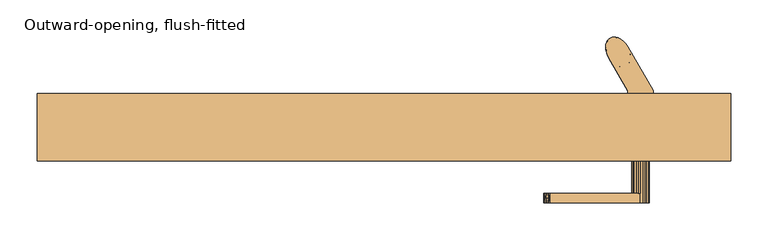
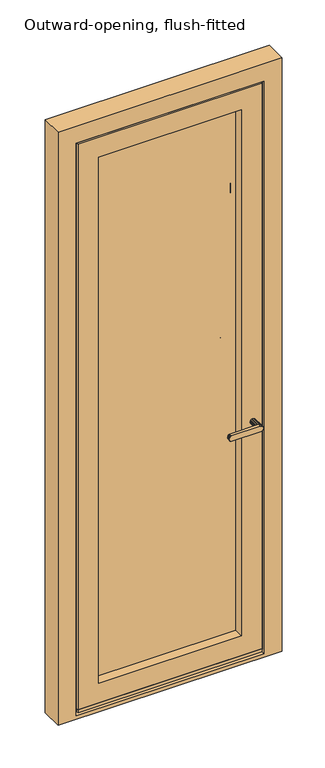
"""IFC4 building model written with IfcOpenShell, lengths in millimetres: door geometry, Outward-opening, flush-fitted."""

from ifc_helpers import new_model, si_unit, frame, origin, place, context, project, spatial, polyline, outline, extrude, faceted_brep, source, transform, mapped, element, save


def outward_opening_flush_fitted_14ec1b22(model_context):
    return source(origin(), model_context, "Body", "SolidModel", [
        faceted_brep([(-174.0, 299.0, 2674.0), (-174.0, 299.0, 165.0072496), (-174.0, 307.3, 167.8651688), (-174.0, 307.3, 2674.0), (-194.5, 307.3, 167.8651688), (-194.5, 307.3, 2694.5), (624.5, 307.3, 2694.5), (624.5, 307.3, 167.8651688), (604.0, 307.3, 167.8651688), (604.0, 307.3, 2674.0), (-194.5, 313.5, 170.0), (-194.5, 321.0, 170.0), (-194.5, 321.0, 164.3), (-194.5, 380.7, 164.3), (-194.5, 380.7, 2694.5), (-206.0, 388.9993365, 150.0), (-206.0, 388.9993365, 2706.0), (-206.0, 380.7, 2706.0), (-206.0, 380.7, 150.0), (-250.0, 388.9993365, 150.0), (-250.0, 388.9993365, 2750.0), (680.0, 388.9993365, 2750.0), (680.0, 388.9993365, 150.0), (636.0, 388.9993365, 150.0), (636.0, 388.9993365, 2706.0), (604.0, 299.0, 165.0072496), (604.0, 299.0, 2674.0), (636.0, 380.7, 150.0), (636.0, 380.7, 2706.0), (624.5, 380.7, 2694.5), (624.5, 380.7, 164.3), (624.5, 321.0, 164.3), (624.5, 321.0, 170.0), (624.5, 313.5, 170.0), (-250.0, 299.0, 2750.0), (680.0, 299.0, 2750.0), (-250.0, 299.0, 150.0), (680.0, 299.0, 150.0)], [[[0, 1, 2, 3]], [[3, 2, 4, 5, 6, 7, 8, 9]], [[5, 4, 10, 11, 12, 13, 14]], [[15, 16, 17, 18]], [[19, 20, 21, 22, 23, 24, 16, 15]], [[9, 8, 25, 26]], [[24, 23, 27, 28]], [[29, 30, 31, 32, 33, 7, 6]], [[26, 0, 3, 9]], [[28, 17, 16, 24]], [[21, 20, 34, 35]], [[29, 6, 5, 14]], [[19, 36, 34, 20]], [[35, 37, 22, 21]], [[37, 35, 34, 36], [1, 0, 26, 25]], [[19, 15, 18, 27, 23, 22, 37, 36]], [[10, 4, 2, 1, 25, 8, 7, 33]], [[18, 17, 28, 27], [30, 29, 14, 13]], [[13, 12, 31, 30]], [[12, 11, 32, 31]], [[11, 10, 33, 32]]]),
        faceted_brep([(570.5801281, 299.0, 1203.102886), (570.9886308, 299.0, 1200.0), (570.5801281, 299.0, 1196.897114), (569.3824588, 299.0, 1194.0056846), (567.4772421, 299.0, 1191.5227579), (564.9943154, 299.0, 1189.6175412), (562.102886, 299.0, 1188.4198719), (559.0, 299.0, 1188.0113692), (555.897114, 299.0, 1188.4198719), (553.0056846, 299.0, 1189.6175412), (550.5227579, 299.0, 1191.5227579), (548.6175412, 299.0, 1194.0056846), (547.4198719, 299.0, 1196.897114), (547.0113692, 299.0, 1200.0), (547.4198719, 299.0, 1203.102886), (548.6175412, 299.0, 1205.9943154), (550.5227579, 299.0, 1208.4772421), (553.0056846, 299.0, 1210.3824588), (555.897114, 299.0, 1211.5801281), (559.0, 299.0, 1211.9886308), (562.102886, 299.0, 1211.5801281), (564.9943154, 299.0, 1210.3824588), (567.4772421, 299.0, 1208.4772421), (569.3824588, 299.0, 1205.9943154), (559.0, 255.5001175, 1188.0113692), (555.897114, 255.5001175, 1188.4198719), (553.0056846, 255.5001175, 1189.6175412), (550.5227579, 255.5001175, 1191.5227579), (548.6175412, 255.5001175, 1194.0056846), (547.4198719, 255.5001175, 1196.897114), (547.0113692, 255.5001175, 1200.0), (547.4198719, 255.5001175, 1203.102886), (548.6175412, 255.5001175, 1205.9943154), (550.5227579, 255.5001175, 1208.4772421), (553.0056846, 255.5001175, 1210.3824588), (555.897114, 255.5001175, 1211.5801281), (559.0, 255.5001175, 1211.9886308), (559.0, 243.0000305, 1211.9886308), (562.102886, 243.0000305, 1211.5801281), (564.9943154, 243.0000305, 1210.3824588), (567.4772421, 243.0000305, 1208.4772421), (569.3824588, 243.0000305, 1205.9943154), (570.5801281, 243.0000305, 1203.102886), (570.9886308, 243.0000305, 1200.0), (570.5801281, 243.0000305, 1196.897114), (569.3824588, 243.0000305, 1194.0056846), (567.4772421, 243.0000305, 1191.5227579), (564.9943154, 243.0000305, 1189.6175412), (562.102886, 243.0000305, 1188.4198719), (559.0, 243.0000305, 1188.0113692), (437.3382074, 243.0000305, 1211.9886308), (435.7960029, 243.0000305, 1211.7582726), (434.3130644, 243.0000305, 1211.0760506), (432.9463805, 243.0000305, 1209.9681822), (431.7484721, 243.0000305, 1208.4772421), (430.765374, 243.0000305, 1206.6605264), (430.0348662, 243.0000305, 1204.5878504), (429.5850218, 243.0000305, 1202.3388658), (429.4331279, 243.0000305, 1200.0), (429.5850218, 243.0000305, 1197.6611342), (430.0348662, 243.0000305, 1195.4121496), (430.765374, 243.0000305, 1193.3394736), (431.7484721, 243.0000305, 1191.5227579), (432.9463805, 243.0000305, 1190.0318178), (434.3130644, 243.0000305, 1188.9239494), (435.7960029, 243.0000305, 1188.2417274), (437.3382074, 243.0000305, 1188.0113692), (429.5850218, 255.5001175, 1197.6611342), (429.4331279, 255.5001175, 1200.0), (429.5850218, 255.5001175, 1202.3388658), (430.0348662, 255.5001175, 1204.5878504), (430.765374, 255.5001175, 1206.6605264), (431.7484721, 255.5001175, 1208.4772421), (432.9463805, 255.5001175, 1209.9681822), (434.3130644, 255.5001175, 1211.0760506), (435.7960029, 255.5001175, 1211.7582726), (437.3382074, 255.5001175, 1211.9886308), (437.3382074, 255.5001175, 1188.0113692), (435.7960029, 255.5001175, 1188.2417274), (434.3130644, 255.5001175, 1188.9239494), (432.9463805, 255.5001175, 1190.0318178), (431.7484721, 255.5001175, 1191.5227579), (430.765374, 255.5001175, 1193.3394736), (430.0348662, 255.5001175, 1195.4121496), (437.3382074, 250.0756599, 1188.0113692), (433.6117788, 249.2500761, 1189.4269715), (431.2274983, 249.2500743, 1192.3944932), (429.773518, 249.250074, 1196.5198842), (430.3665497, 249.250074, 1205.6514014), (429.471193, 249.2500741, 1201.1750915), (432.323278, 249.250074, 1209.2673369), (435.0434839, 249.250074, 1211.4724044), (437.3382074, 249.250074, 1211.9886308)], [[[0, 1, 2, 3, 4, 5, 6, 7, 8, 9, 10, 11, 12, 13, 14, 15, 16, 17, 18, 19, 20, 21, 22, 23]], [[7, 24, 25, 8]], [[8, 25, 26, 9]], [[11, 10, 27, 28]], [[27, 10, 9, 26]], [[12, 11, 28, 29]], [[12, 29, 30, 13]], [[13, 30, 31, 14]], [[14, 31, 32, 15]], [[17, 16, 33, 34]], [[33, 16, 15, 32]], [[18, 17, 34, 35]], [[18, 35, 36, 19]], [[19, 36, 37, 38, 20]], [[20, 38, 39, 21]], [[23, 22, 40, 41]], [[40, 22, 21, 39]], [[0, 23, 41, 42]], [[0, 42, 43, 1]], [[1, 43, 44, 2]], [[2, 44, 45, 3]], [[5, 4, 46, 47]], [[46, 4, 3, 45]], [[6, 5, 47, 48]], [[6, 48, 49, 24, 7]], [[44, 43, 42, 41, 40, 39, 38, 37, 50, 51, 52, 53, 54, 55, 56, 57, 58, 59, 60, 61, 62, 63, 64, 65, 66, 49, 48, 47, 46, 45]], [[67, 68, 69, 70, 71, 72, 73, 74, 75, 76, 36, 35, 34, 33, 32, 31, 30, 29, 28, 27, 26, 25, 24, 77, 78, 79, 80, 81, 82, 83]], [[24, 49, 66, 84, 77]], [[65, 64, 85]], [[86, 85, 63]], [[82, 87, 83]], [[80, 86, 81]], [[69, 88, 70]], [[84, 85, 78]], [[87, 60, 59]], [[89, 57, 56]], [[60, 87, 86]], [[73, 90, 91, 74]], [[62, 61, 86]], [[90, 72, 71, 88]], [[89, 87, 58]], [[79, 85, 80]], [[78, 77, 84]], [[65, 84, 66]], [[79, 78, 85]], [[87, 59, 58]], [[63, 85, 64]], [[61, 60, 86]], [[63, 62, 86]], [[81, 86, 82]], [[80, 85, 86]], [[75, 92, 76]], [[51, 50, 92]], [[88, 55, 54, 90]], [[82, 86, 87]], [[84, 65, 85]], [[67, 83, 87]], [[53, 52, 91, 90]], [[67, 87, 89]], [[88, 56, 55]], [[56, 88, 89]], [[52, 51, 91]], [[90, 54, 53]], [[68, 67, 89]], [[68, 89, 69]], [[69, 89, 88]], [[70, 88, 71]], [[51, 92, 91]], [[90, 73, 72]], [[74, 91, 75]], [[91, 92, 75]], [[89, 58, 57]], [[37, 36, 76, 92, 50]]]),
        faceted_brep([(608.5, 307.3, 2678.5), (608.5, 307.3, 178.5), (608.5, 380.7, 178.5), (608.5, 380.7, 2678.5), (629.0, 380.7, 2699.0), (-199.0, 380.7, 2699.0), (-199.0, 380.7, 158.0), (629.0, 380.7, 158.0), (-178.5, 380.7, 2678.5), (-178.5, 380.7, 178.5), (-178.5, 307.3, 178.5), (-178.5, 307.3, 2678.5), (-167.0, 307.3, 2667.0), (597.0, 307.3, 2667.0), (597.0, 307.3, 190.0), (-167.0, 307.3, 190.0), (597.0, 299.0, 2667.0), (597.0, 299.0, 190.0), (-167.0, 299.0, 190.0), (-167.0, 299.0, 2667.0), (-81.9999695, 299.0, 2581.9999695), (511.9999695, 299.0, 2581.9999695), (511.9999695, 299.0, 275.0000305), (-81.9999695, 299.0, 275.0000305), (511.9999695, 340.0, 2581.9999695), (511.9999695, 340.0, 275.0000305), (-81.9999695, 340.0, 275.0000305), (-97.0, 340.0, 2597.0), (527.0, 340.0, 2597.0), (527.0, 340.0, 260.0), (-97.0, 340.0, 260.0), (-81.9999695, 340.0, 2581.9999695), (527.0, 378.0, 2597.0), (527.0, 378.0, 260.0), (-97.0, 378.0, 260.0), (-97.0, 378.0, 2597.0), (-80.0, 378.0, 2580.0), (510.0, 378.0, 2580.0), (510.0, 378.0, 277.0), (-80.0, 378.0, 277.0), (510.0, 389.0, 2580.0), (510.0, 389.0, 277.0), (-80.0, 389.0, 277.0), (-199.0, 389.0, 2699.0), (629.0, 389.0, 2699.0), (629.0, 389.0, 158.0), (-199.0, 389.0, 158.0), (-80.0, 389.0, 2580.0)], [[[0, 1, 2, 3]], [[4, 5, 6, 7], [8, 3, 2, 9]], [[1, 10, 9, 2]], [[0, 11, 10, 1], [12, 13, 14, 15]], [[16, 17, 14, 13]], [[17, 18, 15, 14]], [[16, 19, 18, 17], [20, 21, 22, 23]], [[24, 25, 22, 21]], [[25, 26, 23, 22]], [[27, 28, 29, 30], [24, 31, 26, 25]], [[32, 33, 29, 28]], [[33, 34, 30, 29]], [[32, 35, 34, 33], [36, 37, 38, 39]], [[40, 41, 38, 37]], [[41, 42, 39, 38]], [[43, 44, 45, 46], [40, 47, 42, 41]], [[4, 7, 45, 44]], [[7, 6, 46, 45]], [[10, 11, 8, 9]], [[18, 19, 12, 15]], [[26, 31, 20, 23]], [[34, 35, 27, 30]], [[42, 47, 36, 39]], [[6, 5, 43, 46]], [[11, 0, 3, 8]], [[19, 16, 13, 12]], [[31, 24, 21, 20]], [[35, 32, 28, 27]], [[47, 40, 37, 36]], [[5, 4, 44, 43]]]),
        faceted_brep([(524.8067219, 464.9671188, 2643.5), (521.3206353, 464.7977178, 2643.5), (518.2202405, 463.6325784, 2643.5), (515.6610041, 461.5301259, 2643.5), (513.7712569, 458.5957857, 2643.5), (512.6457588, 454.9766982, 2643.5), (512.3409469, 450.8543393, 2643.5), (512.8721059, 446.4354214, 2643.5), (514.212601, 441.9415275, 2643.5), (516.2952144, 437.5980002, 2643.5), (519.0155151, 433.622642, 2643.5), (522.2370958, 430.2147941, 2643.5), (525.7984131, 427.5453402, 2643.5), (529.5208876, 425.7481378, 2643.5), (533.2178589, 424.9133062, 2643.5), (536.7039455, 425.0827073, 2643.5), (539.8043404, 426.2478466, 2643.5), (542.3635768, 428.3502991, 2643.5), (544.2533239, 431.2846393, 2643.5), (545.3788221, 434.9037268, 2643.5), (545.6836339, 439.0260857, 2643.5), (545.152475, 443.4450036, 2643.5), (543.8119798, 447.9388975, 2643.5), (541.7293665, 452.2824248, 2643.5), (539.0090658, 456.257783, 2643.5), (535.787485, 459.6656309, 2643.5), (532.2261678, 462.3350848, 2643.5), (528.5036932, 464.1322872, 2643.5), (542.3635768, 428.3502991, 213.5), (539.8043404, 426.2478466, 213.5), (536.7039455, 425.0827073, 213.5), (533.2178589, 424.9133062, 213.5), (529.5208876, 425.7481378, 213.5), (525.7984131, 427.5453402, 213.5), (522.2370958, 430.2147941, 213.5), (519.0155151, 433.622642, 213.5), (516.2952144, 437.5980002, 213.5), (514.212601, 441.9415275, 213.5), (512.8721059, 446.4354214, 213.5), (512.3409469, 450.8543393, 213.5), (512.6457588, 454.9766982, 213.5), (513.7712569, 458.5957857, 213.5), (515.6610041, 461.5301259, 213.5), (518.2202405, 463.6325784, 213.5), (521.3206353, 464.7977178, 213.5), (524.8067219, 464.9671188, 213.5), (528.5036932, 464.1322872, 213.5), (532.2261678, 462.3350848, 213.5), (535.787485, 459.6656309, 213.5), (539.0090658, 456.257783, 213.5), (541.7293665, 452.2824248, 213.5), (543.8119798, 447.9388975, 213.5), (545.152475, 443.4450036, 213.5), (545.6836339, 439.0260857, 213.5), (545.3788221, 434.9037268, 213.5), (544.2533239, 431.2846393, 213.5), (533.204278, 461.7002488, 285.1216157), (512.3332551, 451.3840043, 541.7922648), (513.2807282, 457.3814933, 477.503479), (516.2952144, 437.5980002, 464.612136), (514.6256704, 460.1586461, 2565.8178129), (526.640293, 464.6737836, 2551.4140378), (541.7293665, 452.2824248, 2559.7959515), (518.2202405, 463.6325784, 2214.3806783), (512.3557948, 452.4170006, 2205.4496908), (512.7823438, 455.6421284, 2288.9719226), (512.4016765, 449.689855, 2571.8783868), (523.0260395, 465.0086042, 291.1821801), (531.6696107, 462.6652573, 349.5601242), (534.2925888, 460.9089118, 412.3733957), (541.7293665, 452.2824248, 380.9080884), (528.7115731, 464.0570647, 2465.163568), (541.7293665, 452.2824248, 2392.3878631), (526.103592, 464.7847841, 2379.4965602), (520.7033401, 464.6535898, 1406.0393016), (517.5979143, 463.2421075, 1504.4375282), (529.9764755, 463.535689, 1487.3231053), (516.8642379, 462.6929778, 2490.8363335), (512.3332873, 451.5014222, 2507.4398827), (517.3632387, 463.0776297, 2417.7296311), (512.3888278, 452.9659797, 316.9067942), (515.1472662, 460.9034648, 278.6589928), (532.6207767, 462.0874413, 757.5763391), (521.6346917, 464.8565813, 718.9515468), (522.0447728, 464.9194231, 799.4283622), (516.2952144, 437.5980002, 2476.0919094), (512.5428396, 448.3516824, 2444.6266291), (516.2952144, 437.5980002, 2392.387864), (531.2171552, 462.917446, 667.2367993), (528.0596481, 464.2830609, 570.2187422), (518.2202404, 463.6325784, 642.6193347), (541.7293665, 452.2824248, 464.6121325), (516.4326117, 462.3177683, 1149.2579881), (513.1594747, 457.0219413, 1192.222599), (518.7751621, 463.9300646, 1205.6986099), (512.5334507, 454.2946764, 2388.4378932), (516.2952144, 437.5980002, 2308.6838187), (541.7293665, 452.2824248, 2476.0919073), (541.7293665, 452.2824248, 297.2040442), (529.4992363, 463.7452541, 1696.9848803), (519.6027498, 464.2953544, 1740.4701392), (532.0082324, 462.4670173, 1774.1505885), (516.2952144, 437.5980002, 2559.7959547), (519.7119616, 464.3371126, 366.1636538), (518.9022354, 463.9920104, 2019.6291527), (512.3664789, 452.6238286, 1979.3677583), (512.3596014, 450.3575628, 2046.7077944), (516.2952144, 437.5980002, 297.2040453), (514.3718801, 459.7466494, 1252.5353002), (512.3440287, 452.1175277, 1293.2709458), (517.1331698, 462.9064169, 1308.7344475), (516.2952144, 437.5980002, 2104.1709547), (513.0798487, 456.7679986, 2104.1709683), (520.0222889, 464.4480687, 2293.6236249), (530.874325, 463.0989603, 2256.0459646), (531.8993408, 462.5316591, 2180.3062673), (516.2952144, 437.5980002, 2172.3419094), (541.7293665, 452.2824248, 1961.7904532), (531.1078119, 462.9762309, 1995.8759468), (541.7293665, 452.2824248, 2029.9614066), (529.1504981, 463.8885374, 468.5621488), (541.7293665, 452.2824248, 548.3161811), (519.1293411, 464.09729, 439.2704161), (516.0991626, 461.9973706, 557.1813833), (512.5657339, 454.5083643, 762.7331652), (512.3333524, 451.3530966, 834.9201968), (515.9105173, 461.8030443, 852.2089645), (532.1755088, 462.3660578, 845.8962913), (541.7293665, 452.2824248, 799.428318), (513.0129722, 456.5418638, 398.4349267), (514.0931864, 459.2476331, 699.2659079), (512.4924963, 448.7546363, 707.8728853), (523.0201691, 465.0083175, 903.5304253), (516.2952144, 437.5980002, 1200.6875), (526.7246302, 464.6544886, 2052.4130295), (534.0792508, 461.0713157, 2088.7278998), (512.4253594, 453.3958882, 1800.142792), (521.4685009, 464.8266146, 1830.408395), (514.3313757, 459.677361, 1093.9612926), (517.9527779, 463.4725453, 1000.9284447), (512.3351833, 451.72976, 1020.4493798), (516.2952144, 437.5980002, 896.9375), (512.6832757, 455.173408, 906.0013833), (527.1247931, 464.5561422, 1233.2770129), (516.1490016, 462.0470828, 2351.9174602), (517.4151131, 463.1148505, 2147.0247257), (516.2952144, 437.5980002, 2240.512864), (518.1040681, 463.5644581, 2086.3960042), (517.0002864, 462.8028033, 1914.3748425), (531.3965432, 462.8191863, 1895.0175583), (514.2594697, 459.5517535, 1854.135443), (512.3397103, 451.9655423, 1901.1370691), (541.7293665, 452.2824248, 2308.6838189), (532.689043, 462.0434449, 2324.2208066), (541.7293665, 452.2824248, 2240.512864), (541.7293665, 452.2824248, 2203.4080895), (541.7293665, 452.2824248, 2098.13236), (516.2952144, 437.5980002, 1960.0625), (516.2952144, 437.5980002, 2036.0), (530.8498752, 463.1115922, 1834.4107874), (516.2952144, 437.5980002, 1732.25), (512.3542325, 452.382843, 1720.7387555), (519.9605444, 464.4268847, 1673.191234), (516.2952144, 437.5980002, 1504.4375), (512.5141923, 454.1582545, 1557.657775), (512.3461994, 452.1821215, 1470.228178), (541.7293665, 452.2824248, 1552.7647243), (541.7293665, 452.2824248, 1504.4375), (541.7293665, 452.2824248, 1469.0606801), (530.5038819, 463.2858992, 1334.6720691), (516.2952144, 437.5980002, 1352.5625), (512.3677062, 452.6452491, 1372.2803887), (541.7293665, 452.2824248, 1960.0625), (541.7293665, 452.2824248, 1893.6194998), (541.7293665, 452.2824248, 1825.4485421), (516.2952144, 437.5980002, 1757.2775934), (516.2952144, 437.5980002, 1825.4485447), (516.2952144, 437.5980002, 1884.125), (522.5128169, 464.9724559, 1559.3780694), (526.2356721, 464.7593661, 1620.9357053), (541.7293665, 452.2824248, 1620.9356777), (532.9667077, 461.8609494, 1568.5371043), (517.3959723, 463.1011746, 1613.1018563), (512.948471, 456.3109201, 1644.5888479), (541.7293665, 452.2824248, 1757.2775844), (541.7293665, 452.2824248, 1732.25), (541.7293665, 452.2824248, 1656.3125), (516.2952144, 437.5980002, 1580.375), (516.2952144, 437.5980002, 1620.935682), (516.2952144, 437.5980002, 1656.3125), (532.2745794, 462.3053124, 1413.3263758), (541.7293665, 452.2824248, 1428.5), (541.7293665, 452.2824248, 1385.3566359), (516.2952144, 437.5980002, 1428.5), (541.7293665, 452.2824248, 1580.375), (516.2952144, 437.5980002, 1552.7647263), (541.7293665, 452.2824248, 1301.6525917), (541.7293665, 452.2824248, 1217.9485432), (531.1735462, 462.9409913, 1008.6884699), (527.0290821, 464.580683, 1092.3925137), (541.7293665, 452.2824248, 1134.2444947), (541.7293665, 452.2824248, 1124.75), (541.7293665, 452.2824248, 1050.5404505), (533.9049208, 461.2013534, 924.9844261), (541.7293665, 452.2824248, 966.8364063), (541.7293665, 452.2824248, 896.9375), (541.7293665, 452.2824248, 883.1323621), (512.5402202, 448.3714072, 1086.7812867), (516.2952144, 437.5980002, 1124.75), (526.9212196, 464.6075734, 1162.8389736), (541.7293665, 452.2824248, 1200.6875), (516.2952144, 437.5980002, 972.875), (512.4464587, 449.1818352, 959.1164959), (516.2952144, 437.5980002, 1048.8125), (516.2952144, 437.5980002, 1050.5404529), (541.7293665, 452.2824248, 1048.8125), (541.7293665, 452.2824248, 972.875), (541.7293665, 452.2824248, 1352.5625), (541.7293665, 452.2824248, 752.8290453), (541.7293665, 452.2824248, 715.7242738), (541.7293665, 452.2824248, 821.0), (541.7293665, 452.2824248, 632.0202296), (520.7076298, 464.6547259, 503.7778315), (512.3400681, 450.8884881, 618.5959499), (516.2952144, 437.5980002, 821.0), (516.2952144, 437.5980002, 752.8290453), (541.7293665, 452.2824248, 684.6580906), (516.2952144, 437.5980002, 548.3161813), (516.2952144, 437.5980002, 632.0202264), (516.2952144, 437.5980002, 684.6580906), (516.2952144, 437.5980002, 799.4283205), (516.2952144, 437.5980002, 715.7242735), (516.2952144, 437.5980002, 1469.0606793), (516.2952144, 437.5980002, 1217.9485469), (516.2952144, 437.5980002, 1301.6525939), (516.2952144, 437.5980002, 2203.4080919), (516.2952144, 437.5980002, 380.9080906), (516.2952144, 437.5980002, 1134.2444999), (516.2952144, 437.5980002, 2098.1323632), (541.7293665, 452.2824248, 2172.3419094), (541.7293665, 452.2824248, 2104.1709547), (525.7297958, 464.849936, 2114.9816334), (516.2952144, 437.5980002, 1893.6194961), (516.2952144, 437.5980002, 1961.7904518), (516.2952144, 437.5980002, 2029.9614075), (541.7293665, 452.2824248, 2036.0), (541.7293665, 452.2824248, 1884.125), (516.2952144, 437.5980002, 1385.3566366), (516.2952144, 437.5980002, 966.8364058), (516.2952144, 437.5980002, 883.1323632), (524.8203028, 428.1801762, 285.1216157), (545.6913257, 438.4964207, 541.7922648), (544.7438526, 432.4989317, 477.503479), (543.3989104, 429.7217789, 2565.8178129), (531.3842879, 425.2066414, 2551.4140378), (539.8043404, 426.2478466, 2214.3806783), (545.6687861, 437.4634244, 2205.4496908), (545.2422371, 434.2382966, 2288.9719226), (545.6229044, 440.19057, 2571.8783868), (534.9985414, 424.8718208, 291.1821801), (526.3549701, 427.2151677, 349.5601242), (523.7319921, 428.9715132, 412.3733957), (529.3130078, 425.8233603, 2465.163568), (531.9209889, 425.0956409, 2379.4965602), (537.3212408, 425.2268352, 1406.0393016), (540.4266666, 426.6383175, 1504.4375282), (528.0481053, 426.344736, 1487.3231053), (541.160343, 427.1874472, 2490.8363335), (545.6912936, 438.3790028, 2507.4398827), (540.6613422, 426.8027953, 2417.7296311), (545.6357531, 436.9144453, 316.9067942), (542.8773146, 428.9769602, 278.6589928), (525.4038041, 427.7929837, 757.5763391), (535.9798081, 424.9610019, 799.4283622), (525.8490721, 427.5143672, 845.8962913), (545.4817412, 441.5287426, 2444.6266291), (526.8074257, 426.962979, 667.2367993), (529.9649328, 425.5973641, 570.2187422), (539.8043404, 426.2478466, 642.6193347), (541.5919692, 427.5626567, 1149.2579881), (544.8651062, 432.8584837, 1192.222599), (539.2494187, 425.9503604, 1205.6986099), (545.4911302, 435.5857486, 2388.4378932), (528.5253446, 426.1351709, 1696.9848803), (538.4218311, 425.5850706, 1740.4701392), (526.0163485, 427.4134077, 1774.1505885), (538.3126193, 425.5433125, 366.1636538), (539.1223455, 425.8884146, 2019.6291527), (545.658102, 437.2565964, 1979.3677583), (545.6649795, 439.5228622, 2046.7077944), (543.6527008, 430.1337756, 1252.5353002), (545.6805521, 437.7628973, 1293.2709458), (540.8914111, 426.9740081, 1308.7344475), (544.9447322, 433.1124264, 2104.1709683), (538.0022919, 425.4323563, 2293.6236249), (527.1502558, 426.7814647, 2256.0459646), (526.12524, 427.3487659, 2180.3062673), (526.916769, 426.9041941, 1995.8759468), (528.8740827, 425.9918876, 468.5621488), (538.8952398, 425.783135, 439.2704161), (541.9254183, 427.8830544, 557.1813833), (545.4588469, 435.3720607, 762.7331652), (545.6912284, 438.5273284, 834.9201968), (542.1140636, 428.0773807, 852.2089645), (545.0116087, 433.3385612, 398.4349267), (543.9313944, 430.6327919, 699.2659079), (545.5320845, 441.1257887, 707.8728853), (535.0044118, 424.8721075, 903.5304253), (531.2999507, 425.2259364, 2052.4130295), (523.9453301, 428.8091093, 2088.7278998), (545.5992215, 436.4845368, 1800.142792), (536.5560799, 425.0538104, 1830.408395), (536.3898891, 425.0238437, 718.9515468), (543.6932052, 430.203064, 1093.9612926), (540.0718029, 426.4078797, 1000.9284447), (545.6893975, 438.150665, 1020.4493798), (545.3413052, 434.707017, 906.0013833), (530.8997878, 425.3242828, 1233.2770129), (541.8755792, 427.8333422, 2351.9174602), (540.6094678, 426.7655745, 2147.0247257), (539.9205128, 426.3159669, 2086.3960042), (541.0242944, 427.0776217, 1914.3748425), (526.6280377, 427.0612387, 1895.0175583), (543.7651112, 430.3286715, 1854.135443), (545.6848705, 437.9148827, 1901.1370691), (525.3355379, 427.8369801, 2324.2208066), (527.1747056, 426.7688328, 1834.4107874), (545.6703483, 437.497582, 1720.7387555), (538.0640364, 425.4535403, 1673.191234), (545.5103885, 435.7221705, 1557.657775), (545.6783814, 437.6983035, 1470.228178), (527.520699, 426.5945258, 1334.6720691), (545.6568747, 437.2351759, 1372.2803887), (535.5117639, 424.9079691, 1559.3780694), (531.7889087, 425.1210589, 1620.9357053), (525.0578731, 428.0194756, 1568.5371043), (540.6286086, 426.7792504, 1613.1018563), (545.0761099, 433.5695049, 1644.5888479), (525.7500014, 427.5751126, 1413.3263758), (526.8510346, 426.9394337, 1008.6884699), (530.9954987, 425.299742, 1092.3925137), (524.1196601, 428.6790716, 924.9844261), (545.4843607, 441.5090178, 1086.7812867), (531.1033612, 425.2728517, 1162.8389736), (545.5781221, 440.6985899, 959.1164959), (537.3169511, 425.2256991, 503.7778315), (545.6845127, 438.9919369, 618.5959499), (532.294785, 425.030489, 2114.9816334)], [[[0, 1, 2, 3, 4, 5, 6, 7, 8, 9, 10, 11, 12, 13, 14, 15, 16, 17, 18, 19, 20, 21, 22, 23, 24, 25, 26, 27]], [[28, 29, 30, 31, 32, 33, 34, 35, 36, 37, 38, 39, 40, 41, 42, 43, 44, 45, 46, 47, 48, 49, 50, 51, 52, 53, 54, 55]], [[56, 49, 48]], [[57, 58, 59]], [[2, 1, 60]], [[26, 61, 27]], [[24, 62, 25]], [[63, 64, 65]], [[1, 61, 60]], [[5, 60, 66]], [[46, 67, 56]], [[68, 69, 70]], [[68, 56, 67]], [[61, 0, 27]], [[71, 72, 73]], [[74, 75, 76]], [[60, 77, 78]], [[2, 60, 3]], [[71, 73, 79]], [[44, 67, 45]], [[25, 61, 26]], [[40, 80, 81]], [[7, 6, 66]], [[82, 83, 84]], [[85, 86, 87]], [[88, 89, 90]], [[91, 70, 69]], [[92, 93, 94]], [[5, 4, 60]], [[62, 61, 25]], [[3, 60, 4]], [[66, 8, 7]], [[95, 65, 96]], [[77, 60, 61]], [[43, 42, 81]], [[67, 44, 43]], [[61, 62, 97]], [[98, 50, 49]], [[24, 23, 62]], [[99, 100, 101]], [[78, 102, 66]], [[81, 103, 67]], [[85, 78, 86]], [[104, 105, 106]], [[61, 1, 0]], [[67, 103, 68]], [[37, 36, 107]], [[8, 102, 9]], [[108, 109, 110]], [[78, 66, 60]], [[107, 80, 38]], [[68, 98, 56]], [[80, 40, 39]], [[81, 41, 40]], [[48, 47, 56]], [[38, 80, 39]], [[43, 81, 67]], [[46, 45, 67]], [[106, 111, 112]], [[95, 96, 87]], [[102, 78, 85]], [[79, 95, 86]], [[63, 113, 114]], [[115, 63, 114]], [[112, 111, 116]], [[77, 61, 71]], [[117, 118, 119]], [[120, 121, 91]], [[98, 68, 70]], [[122, 120, 69]], [[123, 90, 89]], [[124, 125, 126]], [[82, 127, 128]], [[122, 129, 58]], [[130, 131, 124]], [[132, 84, 126]], [[93, 133, 109]], [[61, 97, 71]], [[129, 122, 103]], [[118, 134, 135]], [[100, 136, 137]], [[130, 124, 83]], [[90, 83, 88]], [[138, 139, 140]], [[125, 141, 142]], [[143, 94, 108]], [[95, 79, 144]], [[115, 145, 63]], [[116, 64, 112]], [[64, 146, 65]], [[112, 145, 147]], [[148, 149, 137]], [[150, 136, 151]], [[152, 114, 153]], [[104, 118, 148]], [[114, 152, 154, 155]], [[148, 118, 149]], [[135, 115, 156]], [[104, 148, 105]], [[151, 157, 105]], [[151, 105, 148]], [[106, 105, 158]], [[115, 114, 155]], [[63, 65, 113]], [[159, 101, 137]], [[160, 136, 161]], [[162, 100, 99]], [[163, 164, 165]], [[76, 166, 167, 168]], [[110, 169, 143]], [[109, 170, 171]], [[118, 135, 119]], [[110, 74, 169]], [[118, 117, 149]], [[134, 118, 104]], [[149, 117, 172, 173]], [[174, 101, 159]], [[137, 101, 100]], [[100, 162, 161]], [[136, 160, 175, 176, 177]], [[177, 151, 136]], [[164, 178, 75]], [[179, 180, 181]], [[182, 164, 183]], [[99, 184, 185, 186, 180]], [[99, 179, 162]], [[183, 162, 182]], [[164, 187, 183]], [[99, 101, 184]], [[74, 165, 75]], [[64, 63, 145]], [[146, 96, 65]], [[182, 162, 179]], [[161, 162, 183]], [[178, 182, 179]], [[182, 178, 164]], [[165, 164, 75]], [[183, 187, 188, 189]], [[179, 181, 178]], [[169, 74, 190]], [[178, 76, 75]], [[76, 178, 181]], [[190, 168, 191, 192]], [[190, 74, 76]], [[171, 193, 165]], [[76, 181, 166]], [[179, 99, 180]], [[181, 180, 194, 166]], [[164, 163, 195, 187]], [[171, 74, 110]], [[74, 171, 165]], [[109, 171, 110]], [[143, 196, 197]], [[196, 143, 169]], [[198, 132, 139]], [[199, 200, 201, 202]], [[94, 93, 108]], [[203, 204, 205, 206]], [[207, 208, 93]], [[209, 197, 210, 200]], [[199, 139, 138]], [[200, 199, 209]], [[211, 140, 212]], [[93, 138, 207]], [[212, 139, 142]], [[207, 140, 213]], [[207, 213, 214, 208]], [[132, 142, 139]], [[83, 124, 84]], [[202, 198, 199]], [[132, 203, 127]], [[198, 202, 215, 216, 204]], [[198, 204, 203]], [[139, 199, 198]], [[169, 192, 217, 196]], [[127, 203, 206]], [[198, 203, 132]], [[82, 128, 218, 219]], [[132, 127, 84]], [[127, 206, 220, 128]], [[82, 219, 88]], [[127, 82, 84]], [[89, 221, 121]], [[221, 89, 88]], [[121, 120, 89]], [[120, 122, 222]], [[88, 83, 82]], [[223, 90, 123]], [[130, 83, 90]], [[124, 224, 125]], [[131, 225, 124]], [[88, 219, 226, 221]], [[222, 89, 120]], [[57, 123, 58]], [[57, 223, 123]], [[223, 227, 228, 229]], [[90, 223, 130]], [[131, 223, 229]], [[223, 131, 130]], [[124, 225, 230, 224]], [[131, 229, 231, 225]], [[165, 193, 232, 163]], [[140, 211, 213]], [[109, 133, 233, 234, 170]], [[140, 207, 138]], [[144, 65, 95]], [[153, 113, 73]], [[129, 59, 58]], [[223, 57, 227]], [[64, 116, 235, 146]], [[66, 102, 8]], [[5, 66, 6]], [[77, 79, 86]], [[56, 98, 49]], [[46, 56, 47]], [[103, 122, 69]], [[77, 86, 78]], [[87, 86, 95]], [[103, 69, 68]], [[91, 69, 120]], [[38, 37, 107]], [[107, 236, 80]], [[93, 208, 237, 133]], [[151, 148, 150]], [[106, 158, 238, 111]], [[148, 137, 150]], [[137, 136, 150]], [[115, 155, 239, 240, 156]], [[115, 241, 145]], [[143, 108, 110]], [[93, 109, 108]], [[143, 209, 94]], [[92, 138, 93]], [[209, 143, 197]], [[92, 199, 138]], [[94, 209, 92]], [[199, 92, 209]], [[41, 81, 42]], [[103, 81, 80]], [[71, 79, 77]], [[144, 73, 113]], [[73, 144, 79]], [[65, 144, 113]], [[72, 71, 97]], [[152, 153, 72]], [[222, 58, 123]], [[103, 80, 129]], [[236, 129, 80]], [[58, 222, 122]], [[89, 222, 123]], [[59, 129, 236]], [[227, 57, 59]], [[147, 145, 241]], [[64, 145, 112]], [[134, 147, 241]], [[106, 147, 104]], [[151, 177, 242, 157]], [[105, 157, 243, 244, 158]], [[106, 112, 147]], [[113, 153, 114]], [[72, 153, 73]], [[147, 134, 104]], [[135, 134, 241]], [[115, 135, 241]], [[135, 156, 245, 119]], [[159, 173, 246, 174]], [[137, 149, 159]], [[159, 149, 173]], [[101, 174, 184]], [[100, 161, 136]], [[161, 189, 160]], [[189, 161, 183]], [[168, 190, 76]], [[169, 190, 192]], [[171, 170, 247, 193]], [[139, 212, 140]], [[212, 141, 248, 211]], [[141, 212, 142]], [[125, 224, 249, 141]], [[126, 125, 142]], [[132, 126, 142]], [[124, 126, 84]], [[250, 35, 34]], [[251, 252, 91]], [[16, 15, 253]], [[12, 254, 13]], [[10, 102, 11]], [[255, 256, 257]], [[15, 254, 253]], [[19, 253, 258]], [[32, 259, 250]], [[260, 261, 236]], [[260, 250, 259]], [[254, 14, 13]], [[262, 87, 263]], [[264, 265, 266]], [[253, 267, 268]], [[16, 253, 17]], [[262, 263, 269]], [[30, 259, 31]], [[11, 254, 12]], [[54, 270, 271]], [[21, 20, 258]], [[272, 273, 274]], [[97, 275, 72]], [[276, 277, 278]], [[59, 236, 261]], [[279, 280, 281]], [[19, 18, 253]], [[102, 254, 11]], [[17, 253, 18]], [[258, 22, 21]], [[282, 257, 152]], [[267, 253, 254]], [[29, 28, 271]], [[259, 30, 29]], [[254, 102, 85]], [[107, 36, 35]], [[10, 9, 102]], [[283, 284, 285]], [[268, 62, 258]], [[271, 286, 259]], [[97, 268, 275]], [[287, 288, 289]], [[254, 15, 14]], [[259, 286, 260]], [[51, 50, 98]], [[22, 62, 23]], [[290, 291, 292]], [[268, 258, 253]], [[98, 270, 52]], [[260, 107, 250]], [[270, 54, 53]], [[271, 55, 54]], [[34, 33, 250]], [[52, 270, 53]], [[29, 271, 259]], [[32, 31, 259]], [[289, 240, 293]], [[282, 152, 72]], [[62, 268, 97]], [[269, 282, 275]], [[255, 294, 295]], [[296, 255, 295]], [[293, 240, 239]], [[267, 254, 262]], [[243, 297, 244]], [[298, 227, 59]], [[107, 260, 236]], [[299, 298, 261]], [[300, 278, 277]], [[301, 302, 303]], [[272, 274, 230]], [[299, 304, 252]], [[305, 306, 301]], [[307, 273, 303]], [[280, 210, 291]], [[254, 85, 262]], [[304, 299, 286]], [[297, 308, 309]], [[284, 310, 311]], [[305, 301, 312]], [[278, 312, 276]], [[313, 314, 315]], [[302, 205, 316]], [[317, 281, 290]], [[282, 269, 318]], [[296, 319, 255]], [[239, 256, 293]], [[256, 154, 257]], [[293, 319, 320]], [[321, 322, 311]], [[323, 310, 324]], [[96, 295, 325]], [[287, 297, 321]], [[295, 96, 146, 235]], [[321, 297, 322]], [[309, 296, 238]], [[287, 321, 288]], [[324, 172, 288]], [[324, 288, 321]], [[289, 288, 245]], [[296, 295, 235]], [[255, 257, 294]], [[326, 285, 311]], [[185, 310, 327]], [[328, 284, 283]], [[167, 329, 330]], [[266, 195, 163, 232]], [[292, 331, 317]], [[291, 217, 332]], [[297, 309, 244]], [[292, 264, 331]], [[297, 243, 322]], [[308, 297, 287]], [[322, 243, 157, 242]], [[176, 285, 326]], [[311, 285, 284]], [[284, 328, 327]], [[310, 185, 184, 174, 246]], [[246, 324, 310]], [[329, 333, 265]], [[334, 188, 335]], [[336, 329, 337]], [[283, 175, 160, 189, 188]], [[283, 334, 328]], [[337, 328, 336]], [[329, 194, 337]], [[283, 285, 175]], [[264, 330, 265]], [[256, 255, 319]], [[154, 152, 257]], [[336, 328, 334]], [[327, 328, 337]], [[333, 336, 334]], [[336, 333, 329]], [[330, 329, 265]], [[337, 194, 180, 186]], [[334, 335, 333]], [[331, 264, 338]], [[333, 266, 265]], [[266, 333, 335]], [[338, 232, 193, 247]], [[338, 264, 266]], [[332, 191, 330]], [[266, 335, 195]], [[334, 283, 188]], [[335, 188, 187, 195]], [[329, 167, 166, 194]], [[332, 264, 292]], [[264, 332, 330]], [[291, 332, 292]], [[317, 234, 233]], [[234, 317, 331]], [[339, 307, 314]], [[340, 237, 208, 214]], [[281, 280, 290]], [[341, 248, 141, 249]], [[342, 201, 280]], [[343, 233, 133, 237]], [[340, 314, 313]], [[237, 340, 343]], [[216, 315, 344]], [[280, 313, 342]], [[344, 314, 316]], [[342, 315, 215]], [[342, 215, 202, 201]], [[307, 316, 314]], [[312, 301, 273]], [[214, 339, 340]], [[307, 341, 274]], [[339, 214, 213, 211, 248]], [[339, 248, 341]], [[314, 340, 339]], [[331, 247, 170, 234]], [[274, 341, 249]], [[339, 341, 307]], [[272, 230, 225, 231]], [[307, 274, 273]], [[274, 249, 224, 230]], [[276, 272, 231]], [[312, 273, 272]], [[277, 228, 227]], [[228, 277, 276]], [[227, 298, 277]], [[298, 299, 345]], [[276, 312, 272]], [[346, 278, 300]], [[305, 312, 278]], [[301, 220, 302]], [[306, 218, 301]], [[276, 231, 229, 228]], [[345, 277, 298]], [[251, 300, 252]], [[251, 346, 300]], [[346, 121, 221, 226]], [[278, 346, 305]], [[306, 346, 226]], [[346, 306, 305]], [[301, 218, 128, 220]], [[306, 226, 219, 218]], [[330, 191, 168, 167]], [[315, 216, 215]], [[291, 210, 197, 196, 217]], [[315, 342, 313]], [[318, 257, 282]], [[325, 294, 263]], [[304, 91, 252]], [[346, 251, 121]], [[256, 239, 155, 154]], [[258, 62, 22]], [[19, 258, 20]], [[267, 269, 275]], [[250, 107, 35]], [[32, 250, 33]], [[286, 299, 261]], [[267, 275, 268]], [[72, 275, 282]], [[286, 261, 260]], [[59, 261, 298]], [[52, 51, 98]], [[98, 70, 270]], [[280, 201, 200, 210]], [[324, 321, 323]], [[289, 245, 156, 240]], [[321, 311, 323]], [[311, 310, 323]], [[296, 235, 116, 111, 238]], [[296, 347, 319]], [[317, 290, 292]], [[280, 291, 290]], [[317, 343, 281]], [[279, 313, 280]], [[343, 317, 233]], [[279, 340, 313]], [[281, 343, 279]], [[340, 279, 343]], [[55, 271, 28]], [[286, 271, 270]], [[262, 269, 267]], [[318, 263, 294]], [[263, 318, 269]], [[257, 318, 294]], [[87, 262, 85]], [[96, 325, 87]], [[345, 252, 300]], [[286, 270, 304]], [[70, 304, 270]], [[252, 345, 299]], [[277, 345, 300]], [[91, 304, 70]], [[121, 251, 91]], [[320, 319, 347]], [[256, 319, 293]], [[308, 320, 347]], [[289, 320, 287]], [[324, 246, 173, 172]], [[288, 172, 117, 119, 245]], [[289, 293, 320]], [[294, 325, 295]], [[87, 325, 263]], [[320, 308, 287]], [[309, 308, 347]], [[296, 309, 347]], [[309, 238, 158, 244]], [[326, 242, 177, 176]], [[311, 322, 326]], [[326, 322, 242]], [[285, 176, 175]], [[284, 327, 310]], [[327, 186, 185]], [[186, 327, 337]], [[232, 338, 266]], [[331, 338, 247]], [[332, 217, 192, 191]], [[314, 344, 315]], [[344, 205, 204, 216]], [[205, 344, 316]], [[302, 220, 206, 205]], [[303, 302, 316]], [[307, 303, 316]], [[301, 303, 273]]]),
        extrude(outline(polyline([(527.0, 378.0), (527.0, 340.0), (-97.0, 340.0), (-97.0, 378.0), (527.0, 378.0)])), frame((0.0, 0.0, 260.0), z_axis=(0.0, 0.0, 1.0), x_axis=(1.0, 0.0, 0.0)), (0.0, 0.0, 1.0), 2337.0),
        faceted_brep([(575.9561005, 393.0, 243.5), (542.0438995, 393.0, 243.5), (542.0438995, 389.0, 243.5), (575.9561005, 389.0, 243.5), (575.9561005, 393.0, 213.5), (542.0438995, 393.0, 213.5), (542.0438995, 393.0, 209.5), (542.0438995, 389.0, 209.5), (575.9561005, 389.0, 209.5), (575.9561005, 393.0, 209.5), (521.3206375, 464.7977182, 213.5), (518.2202421, 463.6325794, 213.5), (515.6610052, 461.5301271, 213.5), (513.7712575, 458.5957871, 213.5), (512.645759, 454.9766994, 213.5), (512.3409469, 450.8543403, 213.5), (512.8721057, 446.4354221, 213.5), (514.2126009, 441.9415279, 213.5), (516.2952144, 437.5980002, 213.5), (541.7293692, 452.2824201, 213.5), (539.0090689, 456.2577791, 213.5), (535.7874883, 459.6656279, 213.5), (532.226171, 462.3350828, 213.5), (528.5036962, 464.1322861, 213.5), (524.8067245, 464.9671186, 213.5), (516.2952144, 437.5980002, 209.5), (514.2126009, 441.9415279, 209.5), (512.8721057, 446.4354221, 209.5), (512.3409469, 450.8543403, 209.5), (512.645759, 454.9766994, 209.5), (513.7712575, 458.5957871, 209.5), (515.6610052, 461.5301271, 209.5), (518.2202421, 463.6325794, 209.5), (521.3206375, 464.7977182, 209.5), (524.8067245, 464.9671186, 209.5), (528.5036962, 464.1322861, 209.5), (532.226171, 462.3350828, 209.5), (535.7874883, 459.6656279, 209.5), (539.0090689, 456.2577791, 209.5), (541.7293692, 452.2824201, 209.5), (541.7293692, 452.2824201, 211.9099144), (516.2952144, 437.5980002, 211.0900865), (514.6256711, 460.1586471, 211.5), (526.6402947, 464.6737832, 211.5), (512.3554423, 450.4468941, 211.5)], [[[0, 1, 2, 3]], [[1, 0, 4, 5]], [[5, 6, 7, 2, 1]], [[2, 7, 8, 3]], [[4, 0, 3, 8, 9]], [[10, 11, 12, 13, 14, 15, 16, 17, 18, 5, 4, 19, 20, 21, 22, 23, 24]], [[9, 8, 7, 6, 25, 26, 27, 28, 29, 30, 31, 32, 33, 34, 35, 36, 37, 38, 39]], [[4, 9, 39, 40, 19]], [[6, 5, 18, 41, 25]], [[20, 19, 40]], [[40, 39, 38]], [[12, 42, 13]], [[40, 37, 43]], [[38, 37, 40]], [[35, 34, 43]], [[21, 43, 22]], [[23, 43, 24]], [[43, 33, 32]], [[26, 25, 41]], [[41, 18, 17]], [[35, 43, 36]], [[40, 21, 20]], [[43, 34, 33]], [[42, 30, 29]], [[43, 37, 36]], [[44, 41, 17]], [[43, 23, 22]], [[43, 10, 24]], [[43, 21, 40]], [[10, 43, 11]], [[42, 43, 32]], [[42, 31, 30]], [[28, 44, 29]], [[41, 27, 26]], [[41, 44, 27]], [[27, 44, 28]], [[17, 16, 44]], [[11, 43, 42]], [[31, 42, 32]], [[12, 11, 42]], [[13, 42, 14]], [[14, 42, 44]], [[44, 42, 29]], [[44, 15, 14]], [[44, 16, 15]]]),
        extrude(outline(polyline([(597.0, 299.0), (-167.0, 299.0), (-167.0, 307.3), (597.0, 307.3), (597.0, 299.0)])), frame((0.0, 0.0, 176.0), z_axis=(0.0, 0.0, 1.0), x_axis=(1.0, 0.0, 0.0)), (0.0, 0.0, 1.0), 14.0),
        faceted_brep([(542.0438995, 393.0, 2613.5), (575.9561005, 393.0, 2613.5), (575.9561005, 389.0, 2613.5), (542.0438995, 389.0, 2613.5), (575.9561005, 393.0, 2643.5), (542.0438995, 393.0, 2643.5), (542.0438995, 389.0, 2647.5), (542.0438995, 393.0, 2647.5), (575.9561005, 389.0, 2647.5), (575.9561005, 393.0, 2647.5), (541.7293665, 452.2824248, 2643.5), (516.2952144, 437.5980002, 2643.5), (514.212601, 441.9415275, 2643.5), (512.8721059, 446.4354214, 2643.5), (512.3409469, 450.8543393, 2643.5), (512.6457588, 454.9766982, 2643.5), (513.7712569, 458.5957857, 2643.5), (515.6610041, 461.5301259, 2643.5), (518.2202405, 463.6325784, 2643.5), (521.3206353, 464.7977178, 2643.5), (524.8067219, 464.9671188, 2643.5), (528.5036932, 464.1322872, 2643.5), (532.2261678, 462.3350848, 2643.5), (535.787485, 459.6656309, 2643.5), (539.0090658, 456.257783, 2643.5), (524.8067219, 464.9671188, 2647.5), (521.3206353, 464.7977178, 2647.5), (518.2202405, 463.6325784, 2647.5), (515.6610041, 461.5301259, 2647.5), (513.7712569, 458.5957857, 2647.5), (512.6457588, 454.9766982, 2647.5), (512.3409469, 450.8543393, 2647.5), (512.8721059, 446.4354214, 2647.5), (514.212601, 441.9415275, 2647.5), (516.2952144, 437.5980002, 2647.5), (541.7293665, 452.2824248, 2647.5), (539.0090658, 456.257783, 2647.5), (535.787485, 459.6656309, 2647.5), (532.2261678, 462.3350848, 2647.5), (528.5036932, 464.1322872, 2647.5), (541.7293665, 452.2824248, 2645.9099144), (516.2952144, 437.5980002, 2645.0900847), (514.6256703, 460.1586458, 2645.5), (526.6402919, 464.6737838, 2645.5), (512.3554423, 450.4468931, 2645.5)], [[[0, 1, 2, 3]], [[4, 1, 0, 5]], [[5, 0, 3, 6, 7]], [[6, 3, 2, 8]], [[4, 9, 8, 2, 1]], [[10, 4, 5, 11, 12, 13, 14, 15, 16, 17, 18, 19, 20, 21, 22, 23, 24]], [[25, 26, 27, 28, 29, 30, 31, 32, 33, 34, 7, 6, 8, 9, 35, 36, 37, 38, 39]], [[9, 4, 10, 40, 35]], [[5, 7, 34, 41, 11]], [[36, 35, 40]], [[40, 10, 24]], [[28, 42, 29]], [[40, 23, 43]], [[24, 23, 40]], [[21, 20, 43]], [[37, 43, 38]], [[39, 43, 25]], [[43, 19, 18]], [[12, 11, 41]], [[41, 34, 33]], [[21, 43, 22]], [[40, 37, 36]], [[43, 20, 19]], [[42, 16, 15]], [[43, 23, 22]], [[44, 41, 33]], [[43, 39, 38]], [[43, 26, 25]], [[43, 37, 40]], [[26, 43, 27]], [[42, 43, 18]], [[42, 17, 16]], [[14, 44, 15]], [[41, 13, 12]], [[41, 44, 13]], [[13, 44, 14]], [[33, 32, 44]], [[27, 43, 42]], [[17, 42, 18]], [[28, 27, 42]], [[29, 42, 30]], [[30, 42, 44]], [[44, 42, 15]], [[44, 31, 30]], [[44, 32, 31]]]),
    ])


if __name__ == "__main__":
    model = new_model("IFC4")
    model_context = context("Model", 3, world=origin())
    ifc_project = project(units=[si_unit("LENGTHUNIT", "METRE", prefix="MILLI")], contexts=[model_context])
    site = spatial("IfcSite", under=ifc_project)
    building = spatial("IfcBuilding", under=site)
    placement = place(None, origin())
    outward_opening_flush_fitted_shape = outward_opening_flush_fitted_14ec1b22(model_context)
    element("IfcDoor", 1, ObjectType="Outward-opening, flush-fitted", at=placement, inside=building, context=model_context, shape_type="MappedRepresentation", body=[
        mapped(outward_opening_flush_fitted_shape, transform((0.0, 0.0, 0.0), x_axis=(1.0, 0.0, 0.0), y_axis=(0.0, 1.0, 0.0), z_axis=(0.0, 0.0, 1.0))),
    ])
    save(model, "model.ifc")
